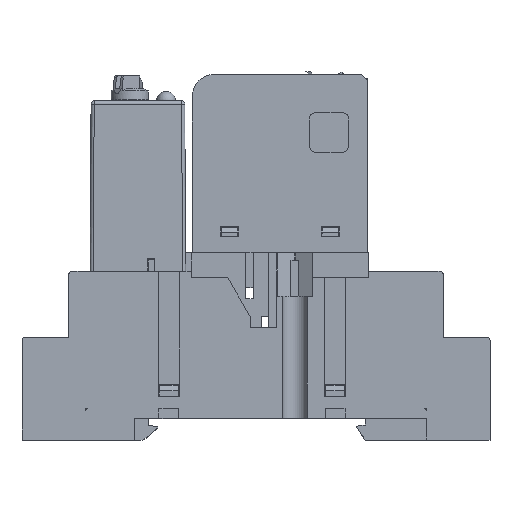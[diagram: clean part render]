
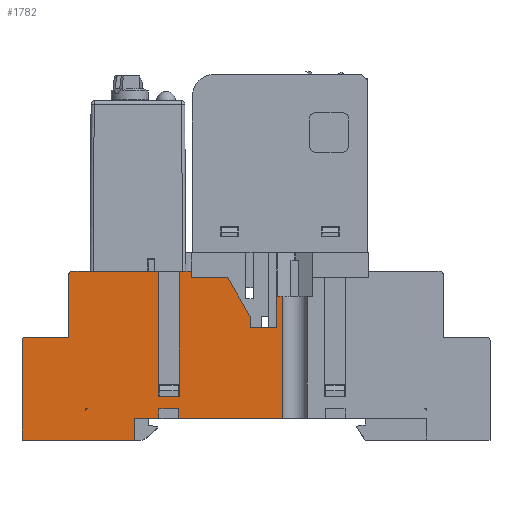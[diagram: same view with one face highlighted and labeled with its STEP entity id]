
A CAD part, top view. The second image highlights one B-rep face of the part: STEP entity #1782.
In plain terms, the highlighted planar face has unit normal (0, 0, 1).
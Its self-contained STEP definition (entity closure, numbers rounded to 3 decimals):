
#1782=ADVANCED_FACE('',(#34297,#34299),#34301,.T.);
#34297=FACE_BOUND('',#34298,.T.);
#34298=EDGE_LOOP('',(#64881,#64882,#64883,#64884,#64885,#64886,#64887,#64888,#64889,
#64890,#64891,#64892,#64893,#64894,#64895,#64896,#64897,#64898,#64899,#64900,#64901,
#64902,#64903,#64904,#64905));
#34299=FACE_BOUND('',#34300,.T.);
#34300=EDGE_LOOP('',(#64906,#64907,#64908));
#34301=PLANE('',#34302);
#34302=AXIS2_PLACEMENT_3D('',#34303,#34304,#34305);
#34303=CARTESIAN_POINT('',(-43.65,0.,15.));
#34304=DIRECTION('',(0.,0.,1.));
#34305=DIRECTION('',(1.,0.,0.));
#64881=ORIENTED_EDGE('',*,*,#84377,.T.);
#64882=ORIENTED_EDGE('',*,*,#84378,.T.);
#64883=ORIENTED_EDGE('',*,*,#84379,.T.);
#64884=ORIENTED_EDGE('',*,*,#83957,.F.);
#64885=ORIENTED_EDGE('',*,*,#84376,.F.);
#64886=ORIENTED_EDGE('',*,*,#84380,.T.);
#64887=ORIENTED_EDGE('',*,*,#84381,.T.);
#64888=ORIENTED_EDGE('',*,*,#84382,.F.);
#64889=ORIENTED_EDGE('',*,*,#84383,.F.);
#64890=ORIENTED_EDGE('',*,*,#84384,.T.);
#64891=ORIENTED_EDGE('',*,*,#84385,.T.);
#64892=ORIENTED_EDGE('',*,*,#84386,.F.);
#64893=ORIENTED_EDGE('',*,*,#84387,.T.);
#64894=ORIENTED_EDGE('',*,*,#84388,.T.);
#64895=ORIENTED_EDGE('',*,*,#84389,.T.);
#64896=ORIENTED_EDGE('',*,*,#84390,.F.);
#64897=ORIENTED_EDGE('',*,*,#84391,.T.);
#64898=ORIENTED_EDGE('',*,*,#84392,.F.);
#64899=ORIENTED_EDGE('',*,*,#84393,.T.);
#64900=ORIENTED_EDGE('',*,*,#84394,.T.);
#64901=ORIENTED_EDGE('',*,*,#84395,.T.);
#64902=ORIENTED_EDGE('',*,*,#84396,.T.);
#64903=ORIENTED_EDGE('',*,*,#84397,.T.);
#64904=ORIENTED_EDGE('',*,*,#84398,.T.);
#64905=ORIENTED_EDGE('',*,*,#83961,.F.);
#64906=ORIENTED_EDGE('',*,*,#84399,.T.);
#64907=ORIENTED_EDGE('',*,*,#84400,.T.);
#64908=ORIENTED_EDGE('',*,*,#84401,.F.);
#83957=EDGE_CURVE('',#94183,#94185,#94186,.T.);
#83961=EDGE_CURVE('',#94191,#94193,#94194,.T.);
#84376=EDGE_CURVE('',#94902,#94183,#94904,.F.);
#84377=EDGE_CURVE('',#94191,#94905,#94906,.F.);
#84378=EDGE_CURVE('',#94905,#94907,#94908,.F.);
#84379=EDGE_CURVE('',#94907,#94185,#94909,.F.);
#84380=EDGE_CURVE('',#94902,#94910,#94911,.F.);
#84381=EDGE_CURVE('',#94910,#94912,#94913,.T.);
#84382=EDGE_CURVE('',#94914,#94912,#94915,.F.);
#84383=EDGE_CURVE('',#94916,#94914,#94917,.T.);
#84384=EDGE_CURVE('',#94916,#94918,#94919,.T.);
#84385=EDGE_CURVE('',#94918,#94920,#94921,.T.);
#84386=EDGE_CURVE('',#94922,#94920,#94923,.T.);
#84387=EDGE_CURVE('',#94922,#94924,#94925,.F.);
#84388=EDGE_CURVE('',#94924,#94926,#94927,.F.);
#84389=EDGE_CURVE('',#94926,#94928,#94929,.F.);
#84390=EDGE_CURVE('',#94930,#94928,#94931,.T.);
#84391=EDGE_CURVE('',#94930,#94932,#94933,.T.);
#84392=EDGE_CURVE('',#94934,#94932,#94935,.T.);
#84393=EDGE_CURVE('',#94934,#94936,#94937,.F.);
#84394=EDGE_CURVE('',#94936,#94938,#94939,.F.);
#84395=EDGE_CURVE('',#94938,#94940,#94941,.F.);
#84396=EDGE_CURVE('',#94940,#94942,#94943,.F.);
#84397=EDGE_CURVE('',#94942,#94944,#94945,.F.);
#84398=EDGE_CURVE('',#94944,#94193,#94946,.F.);
#84399=EDGE_CURVE('',#94947,#94948,#94949,.F.);
#84400=EDGE_CURVE('',#94948,#94950,#94951,.F.);
#84401=EDGE_CURVE('',#94947,#94950,#94952,.F.);
#94183=VERTEX_POINT('',#111327);
#94185=VERTEX_POINT('',#111331);
#94186=LINE('',#111332,#111333);
#94191=VERTEX_POINT('',#111343);
#94193=VERTEX_POINT('',#111347);
#94194=LINE('',#111348,#111349);
#94902=VERTEX_POINT('',#112939);
#94904=CIRCLE('',#112943,0.5);
#94905=VERTEX_POINT('',#112947);
#94906=LINE('',#112948,#112949);
#94907=VERTEX_POINT('',#112951);
#94908=LINE('',#112952,#112953);
#94909=LINE('',#112955,#112956);
#94910=VERTEX_POINT('',#112958);
#94911=LINE('',#112959,#112960);
#94912=VERTEX_POINT('',#112962);
#94913=LINE('',#112963,#112964);
#94914=VERTEX_POINT('',#112966);
#94915=CIRCLE('',#112967,0.5);
#94916=VERTEX_POINT('',#112971);
#94917=LINE('',#112972,#112973);
#94918=VERTEX_POINT('',#112975);
#94919=LINE('',#112976,#112977);
#94920=VERTEX_POINT('',#112979);
#94921=LINE('',#112980,#112981);
#94922=VERTEX_POINT('',#112983);
#94923=LINE('',#112984,#112985);
#94924=VERTEX_POINT('',#112987);
#94925=LINE('',#112988,#112989);
#94926=VERTEX_POINT('',#112991);
#94927=LINE('',#112992,#112993);
#94928=VERTEX_POINT('',#112995);
#94929=LINE('',#112996,#112997);
#94930=VERTEX_POINT('',#112999);
#94931=LINE('',#113000,#113001);
#94932=VERTEX_POINT('',#113003);
#94933=LINE('',#113004,#113005);
#94934=VERTEX_POINT('',#113007);
#94935=LINE('',#113008,#113009);
#94936=VERTEX_POINT('',#113011);
#94937=LINE('',#113012,#113013);
#94938=VERTEX_POINT('',#113015);
#94939=LINE('',#113016,#113017);
#94940=VERTEX_POINT('',#113019);
#94941=LINE('',#113020,#113021);
#94942=VERTEX_POINT('',#113023);
#94943=LINE('',#113024,#113025);
#94944=VERTEX_POINT('',#113027);
#94945=LINE('',#113028,#113029);
#94946=LINE('',#113031,#113032);
#94947=VERTEX_POINT('',#113034);
#94948=VERTEX_POINT('',#113035);
#94949=LINE('',#113036,#113037);
#94950=VERTEX_POINT('',#113039);
#94951=LINE('',#113040,#113041);
#94952=CIRCLE('',#113043,0.3);
#111327=CARTESIAN_POINT('',(-35.65,27.,15.));
#111331=CARTESIAN_POINT('',(-21.85,27.,15.));
#111332=CARTESIAN_POINT('',(-35.65,27.,15.));
#111333=VECTOR('',#111334,1.);
#111334=DIRECTION('',(1.,0.,0.));
#111343=CARTESIAN_POINT('',(-18.45,27.,15.));
#111347=CARTESIAN_POINT('',(-16.55,27.,15.));
#111348=CARTESIAN_POINT('',(-18.45,27.,15.));
#111349=VECTOR('',#111350,1.);
#111350=DIRECTION('',(1.,0.,0.));
#112939=CARTESIAN_POINT('',(-36.15,26.5,15.));
#112943=AXIS2_PLACEMENT_3D('',#112944,#112945,#112946);
#112944=CARTESIAN_POINT('',(-35.65,26.5,15.));
#112945=DIRECTION('',(0.,-0.,1.));
#112946=DIRECTION('',(0.,1.,0.));
#112947=CARTESIAN_POINT('',(-18.45,7.,15.));
#112948=CARTESIAN_POINT('',(-18.45,7.,15.));
#112949=VECTOR('',#112950,1.);
#112950=DIRECTION('',(0.,1.,0.));
#112951=CARTESIAN_POINT('',(-21.85,7.,15.));
#112952=CARTESIAN_POINT('',(-21.85,7.,15.));
#112953=VECTOR('',#112954,1.);
#112954=DIRECTION('',(1.,0.,0.));
#112955=CARTESIAN_POINT('',(-21.85,27.,15.));
#112956=VECTOR('',#112957,1.);
#112957=DIRECTION('',(0.,-1.,0.));
#112958=CARTESIAN_POINT('',(-36.15,16.5,15.));
#112959=CARTESIAN_POINT('',(-36.15,16.5,15.));
#112960=VECTOR('',#112961,1.);
#112961=DIRECTION('',(0.,1.,0.));
#112962=CARTESIAN_POINT('',(-43.15,16.5,15.));
#112963=CARTESIAN_POINT('',(-36.15,16.5,15.));
#112964=VECTOR('',#112965,1.);
#112965=DIRECTION('',(-1.,0.,0.));
#112966=CARTESIAN_POINT('',(-43.65,16.,15.));
#112967=AXIS2_PLACEMENT_3D('',#112968,#112969,#112970);
#112968=CARTESIAN_POINT('',(-43.15,16.,15.));
#112969=DIRECTION('',(0.,-0.,1.));
#112970=DIRECTION('',(0.,1.,0.));
#112971=CARTESIAN_POINT('',(-43.65,0.,15.));
#112972=CARTESIAN_POINT('',(-43.65,0.,15.));
#112973=VECTOR('',#112974,1.);
#112974=DIRECTION('',(0.,1.,0.));
#112975=CARTESIAN_POINT('',(-25.65,0.,15.));
#112976=CARTESIAN_POINT('',(-43.65,0.,15.));
#112977=VECTOR('',#112978,1.);
#112978=DIRECTION('',(1.,0.,0.));
#112979=CARTESIAN_POINT('',(-25.65,3.5,15.));
#112980=CARTESIAN_POINT('',(-25.65,0.,15.));
#112981=VECTOR('',#112982,1.);
#112982=DIRECTION('',(0.,1.,0.));
#112983=CARTESIAN_POINT('',(-21.75,3.5,15.));
#112984=CARTESIAN_POINT('',(-21.75,3.5,15.));
#112985=VECTOR('',#112986,1.);
#112986=DIRECTION('',(-1.,0.,0.));
#112987=CARTESIAN_POINT('',(-21.75,5.,15.));
#112988=CARTESIAN_POINT('',(-21.75,5.,15.));
#112989=VECTOR('',#112990,1.);
#112990=DIRECTION('',(0.,-1.,0.));
#112991=CARTESIAN_POINT('',(-18.55,5.,15.));
#112992=CARTESIAN_POINT('',(-18.55,5.,15.));
#112993=VECTOR('',#112994,1.);
#112994=DIRECTION('',(-1.,0.,0.));
#112995=CARTESIAN_POINT('',(-18.55,3.5,15.));
#112996=CARTESIAN_POINT('',(-18.55,3.5,15.));
#112997=VECTOR('',#112998,1.);
#112998=DIRECTION('',(0.,1.,0.));
#112999=CARTESIAN_POINT('',(-2.,3.5,15.));
#113000=CARTESIAN_POINT('',(-2.,3.5,15.));
#113001=VECTOR('',#113002,1.);
#113002=DIRECTION('',(-1.,0.,0.));
#113003=CARTESIAN_POINT('',(-2.,23.,15.));
#113004=CARTESIAN_POINT('',(-2.,3.5,15.));
#113005=VECTOR('',#113006,1.);
#113006=DIRECTION('',(0.,1.,0.));
#113007=CARTESIAN_POINT('',(-2.9,23.,15.));
#113008=CARTESIAN_POINT('',(-2.9,23.,15.));
#113009=VECTOR('',#113010,1.);
#113010=DIRECTION('',(1.,0.,0.));
#113011=CARTESIAN_POINT('',(-2.9,18.,15.));
#113012=CARTESIAN_POINT('',(-2.9,18.,15.));
#113013=VECTOR('',#113014,1.);
#113014=DIRECTION('',(0.,1.,0.));
#113015=CARTESIAN_POINT('',(-7.15,18.,15.));
#113016=CARTESIAN_POINT('',(-7.15,18.,15.));
#113017=VECTOR('',#113018,1.);
#113018=DIRECTION('',(1.,0.,0.));
#113019=CARTESIAN_POINT('',(-7.15,19.8,15.));
#113020=CARTESIAN_POINT('',(-7.15,19.8,15.));
#113021=VECTOR('',#113022,1.);
#113022=DIRECTION('',(0.,-1.,0.));
#113023=CARTESIAN_POINT('',(-10.73,26.,15.));
#113024=CARTESIAN_POINT('',(-10.73,26.,15.));
#113025=VECTOR('',#113026,1.);
#113026=DIRECTION('',(0.5,-0.866,0.));
#113027=CARTESIAN_POINT('',(-16.55,26.,15.));
#113028=CARTESIAN_POINT('',(-16.55,26.,15.));
#113029=VECTOR('',#113030,1.);
#113030=DIRECTION('',(1.,0.,0.));
#113031=CARTESIAN_POINT('',(-16.55,27.,15.));
#113032=VECTOR('',#113033,1.);
#113033=DIRECTION('',(0.,-1.,0.));
#113034=CARTESIAN_POINT('',(-33.45,4.7,15.));
#113035=CARTESIAN_POINT('',(-33.45,5.,15.));
#113036=CARTESIAN_POINT('',(-33.45,5.,15.));
#113037=VECTOR('',#113038,1.);
#113038=DIRECTION('',(0.,-1.,0.));
#113039=CARTESIAN_POINT('',(-33.15,5.,15.));
#113040=CARTESIAN_POINT('',(-33.15,5.,15.));
#113041=VECTOR('',#113042,1.);
#113042=DIRECTION('',(-1.,0.,0.));
#113043=AXIS2_PLACEMENT_3D('',#113044,#113045,#113046);
#113044=CARTESIAN_POINT('',(-33.15,4.7,15.));
#113045=DIRECTION('',(0.,-0.,1.));
#113046=DIRECTION('',(0.,1.,0.));
